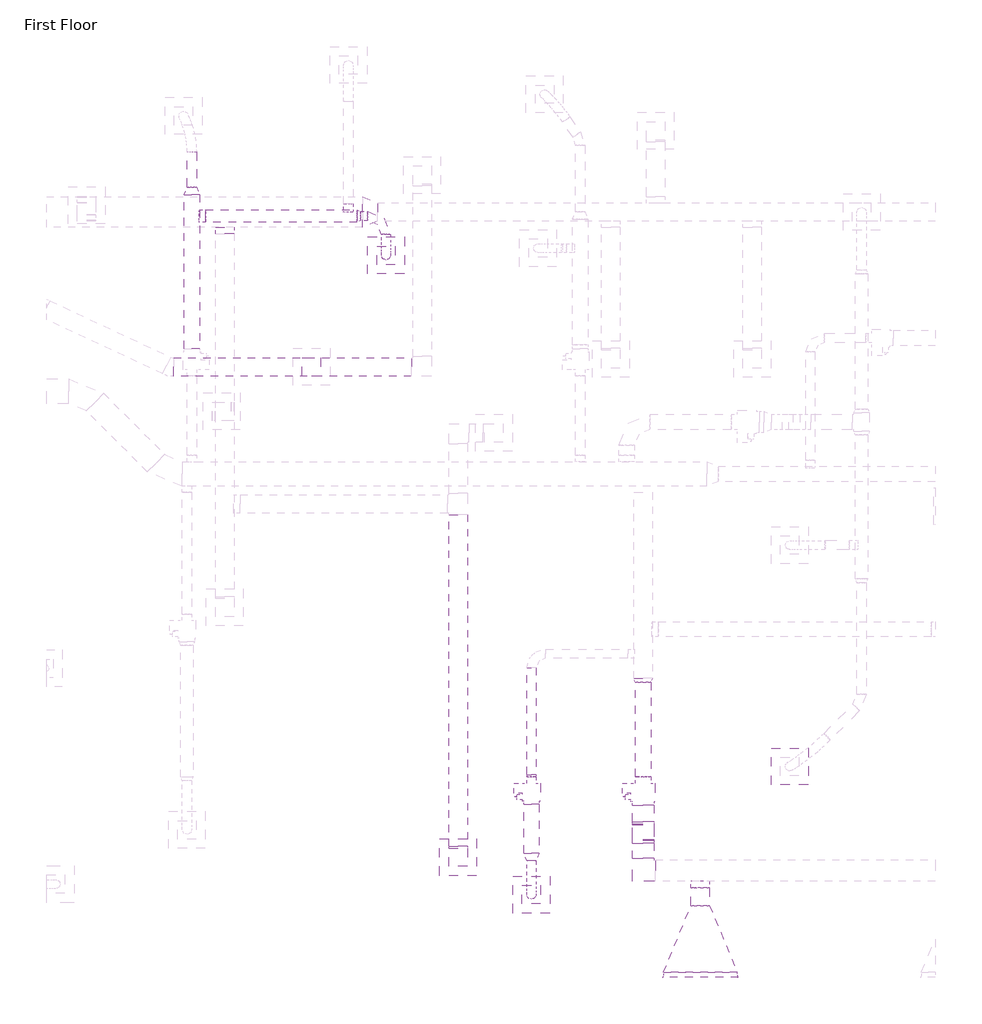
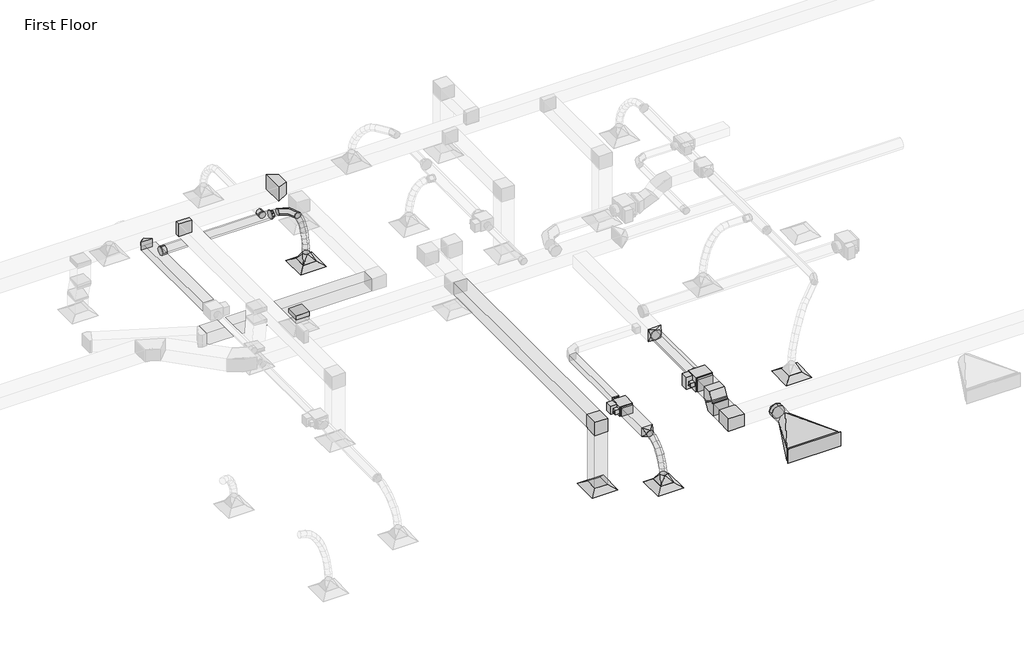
# One storey, part 52 of 61: 19 duct fittings, 17 duct segments, 5 air terminals, 2 proxies.
"""IFC4 building model written with IfcOpenShell, lengths in millimetres."""

from ifc_helpers import new_model, si_unit, point, frame, frame_2d, origin, place, context, project, spatial, polyline, circle_curve, ellipse_curve, trimmed, segment, composite_curve, outline, extrude, transform, mapped, element, save
from ifc_brep_helpers import plane_surface, cylinder_surface, advanced_brep
from components import m_exhaust_grill_er_600_x_600_face_300_x_300_connection_ff221211, m_supply_diffuser_sidewall_sd_1200mm_69bb5c6f, m_vav_unit_single_duct_150_mm_ffdab17b, m_vav_unit_single_duct_250_mm_b14a1009, m_rectangular_elbow_mitered_standard_8eee5933, m_rectangular_elbow_mitered_standard_2347553f, m_rectangular_elbow_mitered_standard_ca528a26, m_rectangular_takeoff_standard_c00386d1, m_rectangular_transition_angle_45_degree_a01fcfa2, m_rectangular_to_round_transition_angle_45_degree_8f201c83, m_rectangular_to_round_transition_angle_45_degree_f32b718d, m_rectangular_to_round_transition_angle_45_degree_c3b12eae, m_rectangular_to_round_transition_angle_45_degree_2860c485, m_rectangular_to_round_transition_angle_45_degree_57822a91, m_round_elbow_2_d_c40af4c7, m_round_takeoff_standard_bf54a221, m_round_takeoff_standard_8efdd074, m_round_takeoff_standard_7aadd90a, m_round_transition_angle_45_degree_6d7b59ce

model = new_model("IFC4")

# Units and contexts
model_context = context("Model", 3, world=origin())
ifc_project = project(units=[si_unit("LENGTHUNIT", "METRE", prefix="MILLI")], contexts=[model_context])

# Site, building, storey
site = spatial("IfcSite", under=ifc_project)
building = spatial("IfcBuilding", under=site)
storey = spatial("IfcBuildingStorey", under=building, Name="First Floor", Elevation=0.0)

# Air terminals
placement = place(None, origin())
m_exhaust_grill_er_600_x_600_face_300_x_300_connection_shape = m_exhaust_grill_er_600_x_600_face_300_x_300_connection_ff221211(model_context)
element("IfcAirTerminal", 1, ObjectType="M_Return Register : RR-600 x 600 Face 300 x 300 Connection", at=placement, inside=storey, context=model_context, shape_type="MappedRepresentation", body=[
    mapped(m_exhaust_grill_er_600_x_600_face_300_x_300_connection_shape, transform((-14834.8231147, 36728.272468, 2680.0), x_axis=(1.0, 0.0, 0.0), y_axis=(0.0, 1.0, 0.0), z_axis=(0.0, 0.0, 1.0))),
])
m_supply_diffuser_sidewall_sd_1200mm_shape = m_supply_diffuser_sidewall_sd_1200mm_69bb5c6f(model_context)
element("IfcAirTerminal", 2, ObjectType="M_Supply Diffuser - Sidewall : SD-1200mm", at=placement, inside=storey, context=model_context, shape_type="MappedRepresentation", body=[
    mapped(m_supply_diffuser_sidewall_sd_1200mm_shape, transform((-10897.7083319, 34780.0, 3450.0), x_axis=(1.0, 0.0, 0.0), y_axis=(0.0, 1.0, 0.0), z_axis=(0.0, 0.0, 1.0))),
])
element("IfcAirTerminal", 3, ObjectType="M_Supply Diffuser : SD-600 x 600 Face 300 x 300 Connection", at=placement, inside=storey, context=model_context, shape_type="MappedRepresentation", body=[
    mapped(m_exhaust_grill_er_600_x_600_face_300_x_300_connection_shape, transform((-13643.5915591, 36121.3540625, 2680.0), x_axis=(1.0, 0.0, 0.0), y_axis=(0.0, 1.0, 0.0), z_axis=(0.0, 0.0, 1.0))),
])
element("IfcAirTerminal", 4, ObjectType="M_Supply Diffuser : SD-600 x 600 Face 300 x 300 Connection", at=placement, inside=storey, context=model_context, shape_type="MappedRepresentation", body=[
    mapped(m_exhaust_grill_er_600_x_600_face_300_x_300_connection_shape, transform((-16006.5821654, 46505.6449671, 2680.0), x_axis=(1.0, 0.0, 0.0), y_axis=(0.0, 1.0, 0.0), z_axis=(0.0, 0.0, 1.0))),
])
element("IfcAirTerminal", 5, ObjectType="M_Supply Diffuser : SD-600 x 600 Face 300 x 300 Connection", at=placement, inside=storey, context=model_context, shape_type="MappedRepresentation", body=[
    mapped(m_exhaust_grill_er_600_x_600_face_300_x_300_connection_shape, transform((-9443.8265855, 38203.1138796, 2680.0), x_axis=(1.0, 0.0, 0.0), y_axis=(0.0, 1.0, 0.0), z_axis=(0.0, 0.0, 1.0))),
])

# Proxies
m_vav_unit_single_duct_150_mm_shape = m_vav_unit_single_duct_150_mm_ffdab17b(model_context)
element("IfcBuildingElementProxy", 6, Name="M_VAV Unit - Single Duct : 150 mm", ObjectType="M_VAV Unit - Single Duct : 150 mm", at=placement, inside=storey, context=model_context, shape_type="MappedRepresentation", body=[
    mapped(m_vav_unit_single_duct_150_mm_shape, transform((-13643.5915591, 37932.1748195, 3500.05), x_axis=(0.0, -1.0, 0.0), y_axis=(1.0, 0.0, 0.0), z_axis=(0.0, 0.0, 1.0))),
])
m_vav_unit_single_duct_250_mm_shape = m_vav_unit_single_duct_250_mm_b14a1009(model_context)
element("IfcBuildingElementProxy", 7, Name="M_VAV Unit - Single Duct : 250 mm", ObjectType="M_VAV Unit - Single Duct : 250 mm", at=placement, inside=storey, context=model_context, shape_type="MappedRepresentation", body=[
    mapped(m_vav_unit_single_duct_250_mm_shape, transform((-11828.5962336, 37932.1748202, 3500.05), x_axis=(0.0, -1.0000000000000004, 0.0), y_axis=(1.0000000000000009, 0.0, 0.0), z_axis=(0.0, 0.0, 1.0000000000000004))),
])

# Duct fittings
m_rectangular_elbow_mitered_standard_shape = m_rectangular_elbow_mitered_standard_8eee5933(model_context)
element("IfcDuctFitting", 8, ObjectType="M_Rectangular Elbow - Mitered : Standard", at=placement, inside=storey, context=model_context, shape_type="MappedRepresentation", body=[
    mapped(m_rectangular_elbow_mitered_standard_shape, transform((-14834.8231147, 36728.272468, 4259.5), x_axis=(0.0, 0.0, 1.0), y_axis=(0.0, 1.0, 0.0), z_axis=(-1.0, 0.0, 0.0))),
])
m_rectangular_elbow_mitered_standard_2_shape = m_rectangular_elbow_mitered_standard_2347553f(model_context)
element("IfcDuctFitting", 9, ObjectType="M_Rectangular Elbow - Mitered : Standard", at=placement, inside=storey, context=model_context, shape_type="MappedRepresentation", body=[
    mapped(m_rectangular_elbow_mitered_standard_2_shape, transform((-11828.5962336, 36511.5685433, 3450.0), x_axis=(0.0, -1.0, 0.0), y_axis=(1.0, 0.0, 0.0), z_axis=(0.0, 0.0, 1.0))),
])
m_rectangular_elbow_mitered_standard_3_shape = m_rectangular_elbow_mitered_standard_ca528a26(model_context)
element("IfcDuctFitting", 10, ObjectType="M_Rectangular Elbow - Mitered : Standard", at=placement, inside=storey, context=model_context, shape_type="MappedRepresentation", body=[
    mapped(m_rectangular_elbow_mitered_standard_3_shape, transform((-11828.5962336, 37195.3748195, 3669.1), x_axis=(0.0, -1.0, 0.0), y_axis=(0.0, 0.0, -1.0), z_axis=(1.0, 0.0, 0.0))),
])
element("IfcDuctFitting", 11, ObjectType="M_Rectangular Elbow - Mitered : Standard", at=placement, inside=storey, context=model_context, shape_type="MappedRepresentation", body=[
    mapped(m_rectangular_elbow_mitered_standard_3_shape, transform((-11828.5962336, 37068.6026039, 3450.0), x_axis=(0.0, 1.0, 0.0), y_axis=(0.0, 0.0, 1.0), z_axis=(1.0, 0.0, 0.0))),
])
m_rectangular_takeoff_standard_shape = m_rectangular_takeoff_standard_c00386d1(model_context)
element("IfcDuctFitting", 12, ObjectType="M_Rectangular Takeoff : Standard", at=placement, inside=storey, context=model_context, shape_type="MappedRepresentation", body=[
    mapped(m_rectangular_takeoff_standard_shape, transform((-18629.3987258, 46961.3321421, 4259.5), x_axis=(0.0, -1.0, 0.0), y_axis=(-1.0, 0.0, 0.0), z_axis=(0.0, 0.0, -1.0))),
])
element("IfcDuctFitting", 13, ObjectType="M_Rectangular Takeoff : Standard", at=placement, inside=storey, context=model_context, shape_type="MappedRepresentation", body=[
    mapped(m_rectangular_takeoff_standard_shape, transform((-17218.5108893, 44694.9781212, 3050.0), x_axis=(0.0, 0.0, -1.0), y_axis=(1.0, 0.0, 0.0), z_axis=(0.0, -1.0, 0.0))),
])
m_rectangular_transition_angle_45_degree_shape = m_rectangular_transition_angle_45_degree_a01fcfa2(model_context)
element("IfcDuctFitting", 14, ObjectType="M_Rectangular Transition - Angle : 45 Degree", at=placement, inside=storey, context=model_context, shape_type="MappedRepresentation", body=[
    mapped(m_rectangular_transition_angle_45_degree_shape, transform((-16148.2435122, 47211.3321421, 4259.5), x_axis=(-1.0, 0.0, 0.0), y_axis=(0.0, -1.0, 0.0), z_axis=(0.0, 0.0, 1.0))),
])
m_rectangular_to_round_transition_angle_45_degree_shape = m_rectangular_to_round_transition_angle_45_degree_8f201c83(model_context)
element("IfcDuctFitting", 15, ObjectType="M_Rectangular to Round Transition - Angle : 45 Degree", at=placement, inside=storey, context=model_context, shape_type="MappedRepresentation", body=[
    mapped(m_rectangular_to_round_transition_angle_45_degree_shape, transform((-13643.5915591, 36121.3540625, 2781.6), x_axis=(0.0, 0.0, 1.0), y_axis=(1.0, 0.0, 0.0), z_axis=(0.0, 1.0, 0.0))),
])
element("IfcDuctFitting", 16, ObjectType="M_Rectangular to Round Transition - Angle : 45 Degree", at=placement, inside=storey, context=model_context, shape_type="MappedRepresentation", body=[
    mapped(m_rectangular_to_round_transition_angle_45_degree_shape, transform((-16006.5821654, 46505.6449671, 2781.6), x_axis=(0.0, 0.0, 1.0), y_axis=(1.0, 0.0, 0.0), z_axis=(0.0, 1.0, 0.0))),
])
m_rectangular_to_round_transition_angle_45_degree_2_shape = m_rectangular_to_round_transition_angle_45_degree_f32b718d(model_context)
element("IfcDuctFitting", 17, ObjectType="M_Rectangular to Round Transition - Angle : 45 Degree", at=placement, inside=storey, context=model_context, shape_type="MappedRepresentation", body=[
    mapped(m_rectangular_to_round_transition_angle_45_degree_2_shape, transform((-10897.7083319, 34856.2, 3450.0), x_axis=(0.0, 1.0, 0.0), y_axis=(-1.0, 0.0, 0.0), z_axis=(0.0, 0.0, 1.0))),
])
m_rectangular_to_round_transition_angle_45_degree_3_shape = m_rectangular_to_round_transition_angle_45_degree_c3b12eae(model_context)
element("IfcDuctFitting", 18, ObjectType="M_Rectangular to Round Transition - Angle : 45 Degree", at=placement, inside=storey, context=model_context, shape_type="MappedRepresentation", body=[
    mapped(m_rectangular_to_round_transition_angle_45_degree_3_shape, transform((-13643.5915591, 36789.3748195, 3619.1), x_axis=(0.0, -1.0, 0.0), y_axis=(1.0, 0.0, 0.0), z_axis=(0.0, 0.0, 1.0))),
])
element("IfcDuctFitting", 19, ObjectType="M_Rectangular to Round Transition - Angle : 45 Degree", at=placement, inside=storey, context=model_context, shape_type="MappedRepresentation", body=[
    mapped(m_rectangular_to_round_transition_angle_45_degree_3_shape, transform((-19163.3092474, 47492.0581212, 3669.2), x_axis=(0.0, 1.0, 0.0), y_axis=(-1.0, 0.0, 0.0), z_axis=(0.0, 0.0, 1.0))),
])
m_rectangular_to_round_transition_angle_45_degree_4_shape = m_rectangular_to_round_transition_angle_45_degree_2860c485(model_context)
element("IfcDuctFitting", 20, ObjectType="M_Rectangular to Round Transition - Angle : 45 Degree", at=placement, inside=storey, context=model_context, shape_type="MappedRepresentation", body=[
    mapped(m_rectangular_to_round_transition_angle_45_degree_4_shape, transform((-13642.7415591, 38071.2748195, 3609.575), x_axis=(0.0, -1.0, 0.0), y_axis=(1.0, 0.0, 0.0), z_axis=(0.0, 0.0, 1.0))),
])
m_rectangular_to_round_transition_angle_45_degree_5_shape = m_rectangular_to_round_transition_angle_45_degree_57822a91(model_context)
element("IfcDuctFitting", 21, ObjectType="M_Rectangular to Round Transition - Angle : 45 Degree", at=placement, inside=storey, context=model_context, shape_type="MappedRepresentation", body=[
    mapped(m_rectangular_to_round_transition_angle_45_degree_5_shape, transform((-11827.7462336, 39633.7748202, 3659.6000695), x_axis=(0.0, -0.9999999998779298, -1.5624999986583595e-05), y_axis=(1.0000000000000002, 0.0, 0.0), z_axis=(0.0, -1.5624999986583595e-05, 0.9999999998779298))),
])
m_round_elbow_2_d_shape = m_round_elbow_2_d_c40af4c7(model_context)
element("IfcDuctFitting", 22, ObjectType="M_Round Elbow : 2 D", at=placement, inside=storey, context=model_context, shape_type="MappedRepresentation", body=[
    mapped(m_round_elbow_2_d_shape, transform((-16006.5821654, 47145.4097109, 3669.2), x_axis=(0.0, 1.0, 0.0), y_axis=(-1.0, 0.0, 0.0), z_axis=(0.0, 0.0, 1.0))),
])
m_round_takeoff_standard_shape = m_round_takeoff_standard_bf54a221(model_context)
element("IfcDuctFitting", 23, ObjectType="M_Round Takeoff : Standard", at=placement, inside=storey, context=model_context, shape_type="MappedRepresentation", body=[
    mapped(m_round_takeoff_standard_shape, transform((-16619.2800831, 47245.4097109, 3669.2), x_axis=(0.0, 1.0, 0.0), y_axis=(1.0, 0.0, 0.0), z_axis=(0.0, 0.0, -1.0))),
])
m_round_takeoff_standard_2_shape = m_round_takeoff_standard_8efdd074(model_context)
element("IfcDuctFitting", 24, ObjectType="M_Round Takeoff : Standard", at=placement, inside=storey, context=model_context, shape_type="MappedRepresentation", body=[
    mapped(m_round_takeoff_standard_2_shape, transform((-19038.3092474, 47145.4097109, 3669.2), x_axis=(1.0, 0.0, 0.0), y_axis=(0.0, -1.0, 0.0), z_axis=(0.0, 0.0, -1.0))),
])
m_round_takeoff_standard_3_shape = m_round_takeoff_standard_7aadd90a(model_context)
element("IfcDuctFitting", 25, ObjectType="M_Round Takeoff : Standard", at=placement, inside=storey, context=model_context, shape_type="MappedRepresentation", body=[
    mapped(m_round_takeoff_standard_3_shape, transform((-10897.7083319, 36336.5685433, 3450.0), x_axis=(0.0, -1.0, 0.0), y_axis=(-1.0, 0.0, 0.0), z_axis=(0.0, 0.0, -1.0))),
])
m_round_transition_angle_45_degree_shape = m_round_transition_angle_45_degree_6d7b59ce(model_context)
element("IfcDuctFitting", 26, ObjectType="M_Round Transition - Angle : 45 Degree", at=placement, inside=storey, context=model_context, shape_type="MappedRepresentation", body=[
    mapped(m_round_transition_angle_45_degree_shape, transform((-16479.2800831, 47145.4097109, 3669.2), x_axis=(1.0, 0.0, 0.0), y_axis=(0.0, 1.0, 0.0), z_axis=(0.0, 0.0, 1.0))),
])

# Duct segments
element("IfcDuctSegment", 27, ObjectType="Flex - Round", at=placement, inside=storey, context=model_context, shape_type="AdvancedBrep", body=[
    advanced_brep(
    [(-13568.5915591, 36668.6641414, 3619.1), (-13643.5915591, 36681.8363138, 3545.2657676), (-13718.5915591, 36668.6641414, 3619.1), (-13643.5915591, 36655.4919689, 3692.9342324), (-13568.5915591, 36548.6441241, 3597.6881926), (-13643.5915591, 36573.1125205, 3525.8692288), (-13718.5915591, 36548.6441241, 3597.6881926), (-13643.5915591, 36524.1757277, 3669.5071564), (-13568.5915591, 36121.3540625, 2962.6660172), (-13643.5915591, 36046.9051455, 2971.7411902), (-13718.5915591, 36121.3540625, 2962.6660172), (-13643.5915591, 36195.8029794, 2953.5908441), (-13568.5915591, 36435.5726453, 3538.7962341), (-13643.5915591, 36478.0374339, 3476.3504809), (-13718.5915591, 36435.5726453, 3538.7962341), (-13643.5915591, 36393.1078567, 3601.2419873), (-13568.5915591, 36333.6471544, 3450.4393199), (-13643.5915591, 36388.1422604, 3398.4223781), (-13718.5915591, 36333.6471544, 3450.4393199), (-13643.5915591, 36279.1520484, 3502.4562617), (-13568.5915591, 36247.0651011, 3340.6326457), (-13643.5915591, 36309.9037755, 3299.1973368), (-13718.5915591, 36247.0651011, 3340.6326457), (-13643.5915591, 36184.2264266, 3382.0679545), (-13568.5915591, 36180.0239349, 3217.3914068), (-13643.5915591, 36249.0246682, 3187.2837613), (-13718.5915591, 36180.0239349, 3217.3914068), (-13643.5915591, 36111.0232016, 3247.4990522), (-13568.5915591, 36136.7211055, 3088.7307988), (-13643.5915591, 36210.2440753, 3072.059543), (-13718.5915591, 36136.7211055, 3088.7307988), (-13643.5915591, 36063.1981358, 3105.4020546)],
    [
        (0, 1, circle_curve(frame((-13643.5915591, 36668.6641414, 3619.1), z_axis=(0.0, 0.9844564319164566, 0.17562896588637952), x_axis=(1.0, 0.0, 0.0)), 75.0)),
        (1, 2, circle_curve(frame((-13643.5915591, 36668.6641414, 3619.1), z_axis=(0.0, 0.9844564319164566, 0.17562896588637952), x_axis=(1.0, 0.0, 0.0)), 75.0)),
        (2, 3, circle_curve(frame((-13643.5915591, 36668.6641414, 3619.1), z_axis=(0.0, 0.9844564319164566, 0.17562896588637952), x_axis=(1.0, 0.0, 0.0)), 75.0)),
        (3, 0, circle_curve(frame((-13643.5915591, 36668.6641414, 3619.1), z_axis=(0.0, 0.9844564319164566, 0.17562896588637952), x_axis=(1.0, 0.0, 0.0)), 75.0)),
        (0, 4),
        (4, 5, ellipse_curve(frame((-13643.5915591, 36548.6441241, 3597.6881926), z_axis=(0.0, 0.9465719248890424, 0.322492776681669), x_axis=(0.0, 0.32249277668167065, -0.946571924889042)), 75.8726959, 75.0)),
        (5, 1),
        (5, 6, ellipse_curve(frame((-13643.5915591, 36548.6441241, 3597.6881926), z_axis=(0.0, 0.9465719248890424, 0.322492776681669), x_axis=(0.0, 0.32249277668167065, -0.946571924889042)), 75.8726959, 75.0)),
        (6, 2),
        (6, 7, ellipse_curve(frame((-13643.5915591, 36548.6441241, 3597.6881926), z_axis=(0.0, 0.9465719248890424, 0.322492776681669), x_axis=(0.0, 0.32249277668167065, -0.946571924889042)), 75.8726959, 75.0)),
        (7, 3),
        (7, 4, ellipse_curve(frame((-13643.5915591, 36548.6441241, 3597.6881926), z_axis=(0.0, 0.9465719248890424, 0.322492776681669), x_axis=(0.0, 0.32249277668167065, -0.946571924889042)), 75.8726959, 75.0)),
        (8, 9, circle_curve(frame((-13643.5915591, 36121.3540625, 2962.6660172), z_axis=(0.0, -0.12100230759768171, -0.9926522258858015), x_axis=(1.0, 0.0, 0.0)), 75.0)),
        (9, 10, circle_curve(frame((-13643.5915591, 36121.3540625, 2962.6660172), z_axis=(0.0, -0.12100230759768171, -0.9926522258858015), x_axis=(1.0, 0.0, 0.0)), 75.0)),
        (10, 11, circle_curve(frame((-13643.5915591, 36121.3540625, 2962.6660172), z_axis=(0.0, -0.12100230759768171, -0.9926522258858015), x_axis=(1.0, 0.0, 0.0)), 75.0)),
        (11, 8, circle_curve(frame((-13643.5915591, 36121.3540625, 2962.6660172), z_axis=(0.0, -0.12100230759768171, -0.9926522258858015), x_axis=(1.0, 0.0, 0.0)), 75.0)),
        (4, 12),
        (12, 13, ellipse_curve(frame((-13643.5915591, 36435.5726453, 3538.7962341), z_axis=(0.0, 0.8269161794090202, 0.5623252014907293), x_axis=(0.0, 0.5623252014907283, -0.8269161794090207)), 75.5164245, 75.0)),
        (13, 5),
        (13, 14, ellipse_curve(frame((-13643.5915591, 36435.5726453, 3538.7962341), z_axis=(0.0, 0.8269161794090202, 0.5623252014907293), x_axis=(0.0, 0.5623252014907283, -0.8269161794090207)), 75.5164245, 75.0)),
        (14, 6),
        (14, 15, ellipse_curve(frame((-13643.5915591, 36435.5726453, 3538.7962341), z_axis=(0.0, 0.8269161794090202, 0.5623252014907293), x_axis=(0.0, 0.5623252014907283, -0.8269161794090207)), 75.5164245, 75.0)),
        (15, 7),
        (15, 12, ellipse_curve(frame((-13643.5915591, 36435.5726453, 3538.7962341), z_axis=(0.0, 0.8269161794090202, 0.5623252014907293), x_axis=(0.0, 0.5623252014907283, -0.8269161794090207)), 75.5164245, 75.0)),
        (12, 16),
        (16, 17, ellipse_curve(frame((-13643.5915591, 36333.6471544, 3450.4393199), z_axis=(0.0, 0.6904680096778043, 0.7233629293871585), x_axis=(0.0, 0.72336292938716, -0.690468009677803)), 75.3357738, 75.0)),
        (17, 13),
        (17, 18, ellipse_curve(frame((-13643.5915591, 36333.6471544, 3450.4393199), z_axis=(0.0, 0.6904680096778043, 0.7233629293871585), x_axis=(0.0, 0.72336292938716, -0.690468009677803)), 75.3357738, 75.0)),
        (18, 14),
        (18, 19, ellipse_curve(frame((-13643.5915591, 36333.6471544, 3450.4393199), z_axis=(0.0, 0.6904680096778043, 0.7233629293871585), x_axis=(0.0, 0.72336292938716, -0.690468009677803)), 75.3357738, 75.0)),
        (19, 15),
        (19, 16, ellipse_curve(frame((-13643.5915591, 36333.6471544, 3450.4393199), z_axis=(0.0, 0.6904680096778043, 0.7233629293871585), x_axis=(0.0, 0.72336292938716, -0.690468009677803)), 75.3357738, 75.0)),
        (16, 20),
        (20, 21, ellipse_curve(frame((-13643.5915591, 36247.0651011, 3340.6326457), z_axis=(0.0, 0.5504884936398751, 0.8348427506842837), x_axis=(0.0, 0.834842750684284, -0.5504884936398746)), 75.2700726, 75.0)),
        (21, 17),
        (21, 22, ellipse_curve(frame((-13643.5915591, 36247.0651011, 3340.6326457), z_axis=(0.0, 0.5504884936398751, 0.8348427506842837), x_axis=(0.0, 0.834842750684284, -0.5504884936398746)), 75.2700726, 75.0)),
        (22, 18),
        (22, 23, ellipse_curve(frame((-13643.5915591, 36247.0651011, 3340.6326457), z_axis=(0.0, 0.5504884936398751, 0.8348427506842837), x_axis=(0.0, 0.834842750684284, -0.5504884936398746)), 75.2700726, 75.0)),
        (23, 19),
        (23, 20, ellipse_curve(frame((-13643.5915591, 36247.0651011, 3340.6326457), z_axis=(0.0, 0.5504884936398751, 0.8348427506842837), x_axis=(0.0, 0.834842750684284, -0.5504884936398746)), 75.2700726, 75.0)),
        (20, 24),
        (24, 25, ellipse_curve(frame((-13643.5915591, 36180.0239349, 3217.3914068), z_axis=(0.0, 0.3999247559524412, 0.9165479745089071), x_axis=(0.0, 0.9165479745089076, -0.3999247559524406)), 75.2832751, 75.0)),
        (25, 21),
        (25, 26, ellipse_curve(frame((-13643.5915591, 36180.0239349, 3217.3914068), z_axis=(0.0, 0.3999247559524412, 0.9165479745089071), x_axis=(0.0, 0.9165479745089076, -0.3999247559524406)), 75.2832751, 75.0)),
        (26, 22),
        (26, 27, ellipse_curve(frame((-13643.5915591, 36180.0239349, 3217.3914068), z_axis=(0.0, 0.3999247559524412, 0.9165479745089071), x_axis=(0.0, 0.9165479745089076, -0.3999247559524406)), 75.2832751, 75.0)),
        (27, 23),
        (27, 24, ellipse_curve(frame((-13643.5915591, 36180.0239349, 3217.3914068), z_axis=(0.0, 0.3999247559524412, 0.9165479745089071), x_axis=(0.0, 0.9165479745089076, -0.3999247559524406)), 75.2832751, 75.0)),
        (24, 28),
        (28, 29, ellipse_curve(frame((-13643.5915591, 36136.7211055, 3088.7307988), z_axis=(0.0, 0.22113534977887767, 0.9752431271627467), x_axis=(0.0, 0.9752431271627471, -0.22113534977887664)), 75.3893749, 75.0)),
        (29, 25),
        (29, 30, ellipse_curve(frame((-13643.5915591, 36136.7211055, 3088.7307988), z_axis=(0.0, 0.22113534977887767, 0.9752431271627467), x_axis=(0.0, 0.9752431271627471, -0.22113534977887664)), 75.3893749, 75.0)),
        (30, 26),
        (30, 31, ellipse_curve(frame((-13643.5915591, 36136.7211055, 3088.7307988), z_axis=(0.0, 0.22113534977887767, 0.9752431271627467), x_axis=(0.0, 0.9752431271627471, -0.22113534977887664)), 75.3893749, 75.0)),
        (31, 27),
        (31, 28, ellipse_curve(frame((-13643.5915591, 36136.7211055, 3088.7307988), z_axis=(0.0, 0.22113534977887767, 0.9752431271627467), x_axis=(0.0, 0.9752431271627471, -0.22113534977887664)), 75.3893749, 75.0)),
        (28, 8),
        (11, 29),
        (10, 30),
        (9, 31),
    ],
    [
        plane_surface(frame((-13643.5915591, 36681.8363138, 3545.2657676), z_axis=(0.0, 0.9844564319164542, 0.1756289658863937), x_axis=(1.0, 0.0, 0.0))),
        cylinder_surface(frame((-13643.5915591, 36668.6641414, 3619.1), z_axis=(0.0, 0.9844564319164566, 0.17562896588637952), x_axis=(1.0, 0.0, 0.0)), 75.0),
        plane_surface(frame((-13643.5915591, 36195.8029794, 2953.5908441), z_axis=(0.0, -0.12100230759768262, -0.9926522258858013), x_axis=(1.0, 0.0, 0.0))),
        cylinder_surface(frame((-13643.5915591, 36548.6441241, 3597.6881926), z_axis=(0.0, 0.8869122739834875, 0.46193789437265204), x_axis=(1.0, 0.0, 0.0)), 75.0),
        cylinder_surface(frame((-13643.5915591, 36435.5726453, 3538.7962341), z_axis=(0.0, 0.7556102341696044, 0.6550215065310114), x_axis=(1.0, 0.0, 0.0)), 75.0),
        cylinder_surface(frame((-13643.5915591, 36333.6471544, 3450.4393199), z_axis=(0.0, 0.6191709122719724, 0.7852562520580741), x_axis=(1.0, 0.0, 0.0)), 75.0),
        cylinder_surface(frame((-13643.5915591, 36247.0651011, 3340.6326457), z_axis=(0.0, 0.4778557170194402, 0.8784383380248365), x_axis=(1.0, 0.0, 0.0)), 75.0),
        cylinder_surface(frame((-13643.5915591, 36180.0239349, 3217.3914068), z_axis=(0.0, 0.31898412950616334, 0.9477600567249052), x_axis=(1.0, 0.0, 0.0)), 75.0),
        cylinder_surface(frame((-13643.5915591, 36136.7211055, 3088.7307988), z_axis=(0.0, 0.12100230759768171, 0.9926522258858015), x_axis=(1.0, 0.0, 0.0)), 75.0),
    ],
    [
        (0, [[1, 2, 3, 4]]),
        (1, [[-1, 5, 6, 7]]),
        (1, [[-2, -7, 8, 9]]),
        (1, [[-3, -9, 10, 11]]),
        (1, [[-4, -11, 12, -5]]),
        (2, [[13, 14, 15, 16]]),
        (3, [[-6, 17, 18, 19]]),
        (3, [[-8, -19, 20, 21]]),
        (3, [[-10, -21, 22, 23]]),
        (3, [[-12, -23, 24, -17]]),
        (4, [[-18, 25, 26, 27]]),
        (4, [[-20, -27, 28, 29]]),
        (4, [[-22, -29, 30, 31]]),
        (4, [[-24, -31, 32, -25]]),
        (5, [[-26, 33, 34, 35]]),
        (5, [[-28, -35, 36, 37]]),
        (5, [[-30, -37, 38, 39]]),
        (5, [[-32, -39, 40, -33]]),
        (6, [[-34, 41, 42, 43]]),
        (6, [[-36, -43, 44, 45]]),
        (6, [[-38, -45, 46, 47]]),
        (6, [[-40, -47, 48, -41]]),
        (7, [[-42, 49, 50, 51]]),
        (7, [[-44, -51, 52, 53]]),
        (7, [[-46, -53, 54, 55]]),
        (7, [[-48, -55, 56, -49]]),
        (8, [[-50, 57, -16, 58]]),
        (8, [[-52, -58, -15, 59]]),
        (8, [[-54, -59, -14, 60]]),
        (8, [[-56, -60, -13, -57]]),
    ],
),
])
element("IfcDuctSegment", 28, ObjectType="Flex - Round", at=placement, inside=storey, context=model_context, shape_type="AdvancedBrep", body=[
    advanced_brep(
    [(-15931.5821654, 46845.4097109, 3669.2), (-16006.5821654, 46861.4635156, 3595.9383091), (-16081.5821654, 46845.4097109, 3669.2), (-16006.5821654, 46829.3559063, 3742.4616909), (-15931.5821654, 46755.7807602, 3649.5596443), (-16006.5821654, 46787.3206497, 3579.6914129), (-16081.5821654, 46755.7807602, 3649.5596443), (-16006.5821654, 46724.2408707, 3719.4278757), (-15931.5821654, 46505.6449671, 2962.6660172), (-16006.5821654, 46430.6957634, 2965.4258837), (-16081.5821654, 46505.6449671, 2962.6660172), (-16006.5821654, 46580.5941708, 2959.9061507), (-15931.5821654, 46682.0737701, 3595.5532984), (-16006.5821654, 46735.8190881, 3541.9553563), (-16081.5821654, 46682.0737701, 3595.5532984), (-16006.5821654, 46628.3284521, 3649.1512405), (-15931.5821654, 46623.0646687, 3514.5530442), (-16006.5821654, 46688.2187728, 3476.6156452), (-16081.5821654, 46623.0646687, 3514.5530442), (-16006.5821654, 46557.9105647, 3552.4904433), (-15931.5821654, 46577.5293838, 3413.9309638), (-16006.5821654, 46647.9984416, 3387.7383402), (-16081.5821654, 46577.5293838, 3413.9309638), (-16006.5821654, 46507.0603261, 3440.1235874), (-15931.5821654, 46544.2438433, 3301.0591389), (-16006.5821654, 46617.2418977, 3283.4423849), (-16081.5821654, 46544.2438433, 3301.0591389), (-16006.5821654, 46471.245789, 3318.6758929), (-15931.5821654, 46521.9839751, 3183.3096516), (-16006.5821654, 46596.2304236, 3172.2966101), (-16081.5821654, 46521.9839751, 3183.3096516), (-16006.5821654, 46447.7375267, 3194.3226931), (-15931.5821654, 46509.5257071, 3068.0545837), (-16006.5821654, 46584.3770762, 3062.6378391), (-16081.5821654, 46509.5257071, 3068.0545837), (-16006.5821654, 46434.674338, 3073.4713282)],
    [
        (0, 1, circle_curve(frame((-16006.5821654, 46845.4097109, 3669.2), z_axis=(0.0, 0.9768225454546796, 0.21405072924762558), x_axis=(1.0, 0.0, 0.0)), 75.0)),
        (1, 2, circle_curve(frame((-16006.5821654, 46845.4097109, 3669.2), z_axis=(0.0, 0.9768225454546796, 0.21405072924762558), x_axis=(1.0, 0.0, 0.0)), 75.0)),
        (2, 3, circle_curve(frame((-16006.5821654, 46845.4097109, 3669.2), z_axis=(0.0, 0.9768225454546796, 0.21405072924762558), x_axis=(1.0, 0.0, 0.0)), 75.0)),
        (3, 0, circle_curve(frame((-16006.5821654, 46845.4097109, 3669.2), z_axis=(0.0, 0.9768225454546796, 0.21405072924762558), x_axis=(1.0, 0.0, 0.0)), 75.0)),
        (0, 4),
        (4, 5, ellipse_curve(frame((-16006.5821654, 46755.7807602, 3649.5596443), z_axis=(0.0, 0.9114366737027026, 0.4114403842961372), x_axis=(0.0, 0.4114403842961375, -0.9114366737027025)), 76.6572527, 75.0)),
        (5, 1),
        (5, 6, ellipse_curve(frame((-16006.5821654, 46755.7807602, 3649.5596443), z_axis=(0.0, 0.9114366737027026, 0.4114403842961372), x_axis=(0.0, 0.4114403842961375, -0.9114366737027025)), 76.6572527, 75.0)),
        (6, 2),
        (6, 7, ellipse_curve(frame((-16006.5821654, 46755.7807602, 3649.5596443), z_axis=(0.0, 0.9114366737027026, 0.4114403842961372), x_axis=(0.0, 0.4114403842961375, -0.9114366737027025)), 76.6572527, 75.0)),
        (7, 3),
        (7, 4, ellipse_curve(frame((-16006.5821654, 46755.7807602, 3649.5596443), z_axis=(0.0, 0.9114366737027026, 0.4114403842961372), x_axis=(0.0, 0.4114403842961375, -0.9114366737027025)), 76.6572527, 75.0)),
        (8, 9, circle_curve(frame((-16006.5821654, 46505.6449671, 2962.6660172), z_axis=(0.0, -0.03679821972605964, -0.9993227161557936), x_axis=(1.0, 0.0, 0.0)), 75.0)),
        (9, 10, circle_curve(frame((-16006.5821654, 46505.6449671, 2962.6660172), z_axis=(0.0, -0.03679821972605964, -0.9993227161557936), x_axis=(1.0, 0.0, 0.0)), 75.0)),
        (10, 11, circle_curve(frame((-16006.5821654, 46505.6449671, 2962.6660172), z_axis=(0.0, -0.03679821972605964, -0.9993227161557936), x_axis=(1.0, 0.0, 0.0)), 75.0)),
        (11, 8, circle_curve(frame((-16006.5821654, 46505.6449671, 2962.6660172), z_axis=(0.0, -0.03679821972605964, -0.9993227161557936), x_axis=(1.0, 0.0, 0.0)), 75.0)),
        (4, 12),
        (12, 13, ellipse_curve(frame((-16006.5821654, 46682.0737701, 3595.5532984), z_axis=(0.0, 0.7061353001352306, 0.7080769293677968), x_axis=(0.0, 0.7080769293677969, -0.7061353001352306)), 75.9032187, 75.0)),
        (13, 5),
        (13, 14, ellipse_curve(frame((-16006.5821654, 46682.0737701, 3595.5532984), z_axis=(0.0, 0.7061353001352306, 0.7080769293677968), x_axis=(0.0, 0.7080769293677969, -0.7061353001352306)), 75.9032187, 75.0)),
        (14, 6),
        (14, 15, ellipse_curve(frame((-16006.5821654, 46682.0737701, 3595.5532984), z_axis=(0.0, 0.7061353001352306, 0.7080769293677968), x_axis=(0.0, 0.7080769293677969, -0.7061353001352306)), 75.9032187, 75.0)),
        (15, 7),
        (15, 12, ellipse_curve(frame((-16006.5821654, 46682.0737701, 3595.5532984), z_axis=(0.0, 0.7061353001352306, 0.7080769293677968), x_axis=(0.0, 0.7080769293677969, -0.7061353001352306)), 75.9032187, 75.0)),
        (12, 16),
        (16, 17, ellipse_curve(frame((-16006.5821654, 46623.0646687, 3514.5530442), z_axis=(0.0, 0.5031864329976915, 0.8641778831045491), x_axis=(0.0, 0.8641778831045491, -0.5031864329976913)), 75.3943203, 75.0)),
        (17, 13),
        (17, 18, ellipse_curve(frame((-16006.5821654, 46623.0646687, 3514.5530442), z_axis=(0.0, 0.5031864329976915, 0.8641778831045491), x_axis=(0.0, 0.8641778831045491, -0.5031864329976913)), 75.3943203, 75.0)),
        (18, 14),
        (18, 19, ellipse_curve(frame((-16006.5821654, 46623.0646687, 3514.5530442), z_axis=(0.0, 0.5031864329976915, 0.8641778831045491), x_axis=(0.0, 0.8641778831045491, -0.5031864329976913)), 75.3943203, 75.0)),
        (19, 15),
        (19, 16, ellipse_curve(frame((-16006.5821654, 46623.0646687, 3514.5530442), z_axis=(0.0, 0.5031864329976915, 0.8641778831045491), x_axis=(0.0, 0.8641778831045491, -0.5031864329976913)), 75.3943203, 75.0)),
        (16, 20),
        (20, 21, ellipse_curve(frame((-16006.5821654, 46577.5293838, 3413.9309638), z_axis=(0.0, 0.3484016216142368, 0.9373453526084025), x_axis=(0.0, 0.9373453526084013, -0.34840162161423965)), 75.1793963, 75.0)),
        (21, 17),
        (21, 22, ellipse_curve(frame((-16006.5821654, 46577.5293838, 3413.9309638), z_axis=(0.0, 0.3484016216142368, 0.9373453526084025), x_axis=(0.0, 0.9373453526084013, -0.34840162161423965)), 75.1793963, 75.0)),
        (22, 18),
        (22, 23, ellipse_curve(frame((-16006.5821654, 46577.5293838, 3413.9309638), z_axis=(0.0, 0.3484016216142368, 0.9373453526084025), x_axis=(0.0, 0.9373453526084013, -0.34840162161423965)), 75.1793963, 75.0)),
        (23, 19),
        (23, 20, ellipse_curve(frame((-16006.5821654, 46577.5293838, 3413.9309638), z_axis=(0.0, 0.3484016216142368, 0.9373453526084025), x_axis=(0.0, 0.9373453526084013, -0.34840162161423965)), 75.1793963, 75.0)),
        (20, 24),
        (24, 25, ellipse_curve(frame((-16006.5821654, 46544.2438433, 3301.0591389), z_axis=(0.0, 0.2345969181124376, 0.9720927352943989), x_axis=(0.0, 0.9720927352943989, -0.23459691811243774)), 75.0937145, 75.0)),
        (25, 21),
        (25, 26, ellipse_curve(frame((-16006.5821654, 46544.2438433, 3301.0591389), z_axis=(0.0, 0.2345969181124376, 0.9720927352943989), x_axis=(0.0, 0.9720927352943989, -0.23459691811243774)), 75.0937145, 75.0)),
        (26, 22),
        (26, 27, ellipse_curve(frame((-16006.5821654, 46544.2438433, 3301.0591389), z_axis=(0.0, 0.2345969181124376, 0.9720927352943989), x_axis=(0.0, 0.9720927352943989, -0.23459691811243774)), 75.0937145, 75.0)),
        (27, 23),
        (27, 24, ellipse_curve(frame((-16006.5821654, 46544.2438433, 3301.0591389), z_axis=(0.0, 0.2345969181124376, 0.9720927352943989), x_axis=(0.0, 0.9720927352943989, -0.23459691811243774)), 75.0937145, 75.0)),
        (24, 28),
        (28, 29, ellipse_curve(frame((-16006.5821654, 46521.9839751, 3183.3096516), z_axis=(0.0, 0.14672553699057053, 0.989177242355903), x_axis=(0.0, 0.9891772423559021, -0.14672553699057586)), 75.0587916, 75.0)),
        (29, 25),
        (29, 30, ellipse_curve(frame((-16006.5821654, 46521.9839751, 3183.3096516), z_axis=(0.0, 0.14672553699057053, 0.989177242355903), x_axis=(0.0, 0.9891772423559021, -0.14672553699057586)), 75.0587916, 75.0)),
        (30, 26),
        (30, 31, ellipse_curve(frame((-16006.5821654, 46521.9839751, 3183.3096516), z_axis=(0.0, 0.14672553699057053, 0.989177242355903), x_axis=(0.0, 0.9891772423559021, -0.14672553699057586)), 75.0587916, 75.0)),
        (31, 27),
        (31, 28, ellipse_curve(frame((-16006.5821654, 46521.9839751, 3183.3096516), z_axis=(0.0, 0.14672553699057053, 0.989177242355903), x_axis=(0.0, 0.9891772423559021, -0.14672553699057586)), 75.0587916, 75.0)),
        (28, 32),
        (32, 33, ellipse_curve(frame((-16006.5821654, 46509.5257071, 3068.0545837), z_axis=(0.0, 0.07217792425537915, 0.9973917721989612), x_axis=(0.0, 0.9973917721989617, -0.07217792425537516)), 75.047109, 75.0)),
        (33, 29),
        (33, 34, ellipse_curve(frame((-16006.5821654, 46509.5257071, 3068.0545837), z_axis=(0.0, 0.07217792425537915, 0.9973917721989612), x_axis=(0.0, 0.9973917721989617, -0.07217792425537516)), 75.047109, 75.0)),
        (34, 30),
        (34, 35, ellipse_curve(frame((-16006.5821654, 46509.5257071, 3068.0545837), z_axis=(0.0, 0.07217792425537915, 0.9973917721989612), x_axis=(0.0, 0.9973917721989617, -0.07217792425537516)), 75.047109, 75.0)),
        (35, 31),
        (35, 32, ellipse_curve(frame((-16006.5821654, 46509.5257071, 3068.0545837), z_axis=(0.0, 0.07217792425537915, 0.9973917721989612), x_axis=(0.0, 0.9973917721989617, -0.07217792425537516)), 75.047109, 75.0)),
        (32, 8),
        (11, 33),
        (10, 34),
        (9, 35),
    ],
    [
        plane_surface(frame((-16006.5821654, 46861.4635156, 3595.9383091), z_axis=(0.0, 0.9768225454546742, 0.21405072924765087), x_axis=(1.0, 0.0, 0.0))),
        cylinder_surface(frame((-16006.5821654, 46845.4097109, 3669.2), z_axis=(0.0, 0.9768225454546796, 0.21405072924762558), x_axis=(1.0, 0.0, 0.0)), 75.0),
        plane_surface(frame((-16006.5821654, 46580.5941708, 2959.9061507), z_axis=(0.0, -0.03679821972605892, -0.9993227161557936), x_axis=(1.0, 0.0, 0.0))),
        cylinder_surface(frame((-16006.5821654, 46755.7807602, 3649.5596443), z_axis=(0.0, 0.8066421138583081, 0.5910401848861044), x_axis=(1.0, 0.0, 0.0)), 75.0),
        cylinder_surface(frame((-16006.5821654, 46682.0737701, 3595.5532984), z_axis=(0.0, 0.5888230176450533, 0.8082619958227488), x_axis=(1.0, 0.0, 0.0)), 75.0),
        cylinder_surface(frame((-16006.5821654, 46623.0646687, 3514.5530442), z_axis=(0.0, 0.41228641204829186, 0.9110542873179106), x_axis=(1.0, 0.0, 0.0)), 75.0),
        cylinder_surface(frame((-16006.5821654, 46577.5293838, 3413.9309638), z_axis=(0.0, 0.282854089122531, 0.9591629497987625), x_axis=(1.0, 0.0, 0.0)), 75.0),
        cylinder_surface(frame((-16006.5821654, 46544.2438433, 3301.0591389), z_axis=(0.0, 0.1857542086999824, 0.9825962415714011), x_axis=(1.0, 0.0, 0.0)), 75.0),
        cylinder_surface(frame((-16006.5821654, 46521.9839751, 3183.3096516), z_axis=(0.0, 0.10746701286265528, 0.994208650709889), x_axis=(1.0, 0.0, 0.0)), 75.0),
        cylinder_surface(frame((-16006.5821654, 46509.5257071, 3068.0545837), z_axis=(0.0, 0.03679821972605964, 0.9993227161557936), x_axis=(1.0, 0.0, 0.0)), 75.0),
    ],
    [
        (0, [[1, 2, 3, 4]]),
        (1, [[-1, 5, 6, 7]]),
        (1, [[-2, -7, 8, 9]]),
        (1, [[-3, -9, 10, 11]]),
        (1, [[-4, -11, 12, -5]]),
        (2, [[13, 14, 15, 16]]),
        (3, [[-6, 17, 18, 19]]),
        (3, [[-8, -19, 20, 21]]),
        (3, [[-10, -21, 22, 23]]),
        (3, [[-12, -23, 24, -17]]),
        (4, [[-18, 25, 26, 27]]),
        (4, [[-20, -27, 28, 29]]),
        (4, [[-22, -29, 30, 31]]),
        (4, [[-24, -31, 32, -25]]),
        (5, [[-26, 33, 34, 35]]),
        (5, [[-28, -35, 36, 37]]),
        (5, [[-30, -37, 38, 39]]),
        (5, [[-32, -39, 40, -33]]),
        (6, [[-34, 41, 42, 43]]),
        (6, [[-36, -43, 44, 45]]),
        (6, [[-38, -45, 46, 47]]),
        (6, [[-40, -47, 48, -41]]),
        (7, [[-42, 49, 50, 51]]),
        (7, [[-44, -51, 52, 53]]),
        (7, [[-46, -53, 54, 55]]),
        (7, [[-48, -55, 56, -49]]),
        (8, [[-50, 57, 58, 59]]),
        (8, [[-52, -59, 60, 61]]),
        (8, [[-54, -61, 62, 63]]),
        (8, [[-56, -63, 64, -57]]),
        (9, [[-58, 65, -16, 66]]),
        (9, [[-60, -66, -15, 67]]),
        (9, [[-62, -67, -14, 68]]),
        (9, [[-64, -68, -13, -65]]),
    ],
),
])
element("IfcDuctSegment", 29, ObjectType="Mitered Elbows / Taps", at=placement, inside=storey, context=model_context, shape_type="SweptSolid", body=[
    extrude(outline(polyline([(-12003.5962336, 36957.0940439), (-11653.5962336, 36957.0940439), (-11653.5962336, 36711.5685433), (-12003.5962336, 36711.5685433), (-12003.5962336, 36957.0940439)])), frame((0.0, 0.0, 3300.0), z_axis=(0.0, 0.0, 1.0), x_axis=(1.0, 0.0, 0.0)), (0.0, 0.0, 1.0), 300.0),
])
element("IfcDuctSegment", 30, ObjectType="Mitered Elbows / Taps", at=placement, inside=storey, context=model_context, shape_type="SweptSolid", body=[
    extrude(outline(polyline([(175.0, -80.4886114), (175.0, -380.4886114), (-175.0, -380.4886114), (-175.0, -80.4886114), (175.0, -80.4886114)])), frame((-11828.5962336, 37323.9482082, 3431.0848919), z_axis=(0.0, 0.500813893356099, 0.8655549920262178), x_axis=(1.0, 0.0, 0.0)), (0.0, 0.0, 1.0), 30.1152655),
])
element("IfcDuctSegment", 31, ObjectType="Mitered Elbows / Taps", at=placement, inside=storey, context=model_context, shape_type="SweptSolid", body=[
    extrude(outline(polyline([(-12003.5962336, 37576.3748202), (-11653.5962336, 37576.3748202), (-11653.5962336, 37306.8833795), (-12003.5962336, 37306.8833795), (-12003.5962336, 37576.3748202)])), frame((0.0, 0.0, 3519.1), z_axis=(0.0, 0.0, 1.0), x_axis=(1.0, 0.0, 0.0)), (0.0, 0.0, 1.0), 300.0),
])
element("IfcDuctSegment", 32, ObjectType="Mitered Elbows / Taps", at=placement, inside=storey, context=model_context, shape_type="SweptSolid", body=[
    extrude(outline(polyline([(-14984.8231147, 36878.272468), (-14684.8231147, 36878.272468), (-14684.8231147, 36578.272468), (-14984.8231147, 36578.272468), (-14984.8231147, 36878.272468)])), frame((0.0, 0.0, 2781.6), z_axis=(0.0, 0.0, 1.0), x_axis=(1.0, 0.0, 0.0)), (0.0, 0.0, 1.0), 1302.9),
])
element("IfcDuctSegment", 33, ObjectType="Mitered Elbows / Taps", at=placement, inside=storey, context=model_context, shape_type="SweptSolid", body=[
    extrude(outline(polyline([(-14684.8231147, 36903.272468), (-14984.8231147, 36903.272468), (-14984.8231147, 42292.9736837), (-14684.8231147, 42292.9736837), (-14684.8231147, 36903.272468)])), frame((0.0, 0.0, 4109.5), z_axis=(0.0, 0.0, 1.0), x_axis=(1.0, 0.0, 0.0)), (0.0, 0.0, 1.0), 300.0),
])
element("IfcDuctSegment", 34, ObjectType="Mitered Elbows / Taps", at=placement, inside=storey, context=model_context, shape_type="SweptSolid", body=[
    extrude(outline(polyline([(-15595.3756959, 44844.9781212), (-15595.3756959, 44544.9781212), (-19462.1214965, 44544.9781212), (-19462.1214965, 44844.9781212), (-15595.3756959, 44844.9781212)])), frame((0.0, 0.0, 3050.0), z_axis=(0.0, 0.0, 1.0), x_axis=(1.0, 0.0, 0.0)), (0.0, 0.0, 1.0), 300.0),
])
element("IfcDuctSegment", 35, ObjectType="Mitered Elbows / Taps", at=placement, inside=storey, context=model_context, shape_type="SweptSolid", body=[
    extrude(outline(polyline([(-17068.5108893, 44844.9781212), (-17068.5108893, 44544.9781212), (-17368.5108893, 44544.9781212), (-17368.5108893, 44844.9781212), (-17068.5108893, 44844.9781212)])), frame((0.0, 0.0, 2781.6), z_axis=(0.0, 0.0, 1.0), x_axis=(1.0, 0.0, 0.0)), (0.0, 0.0, 1.0), 168.4),
])
element("IfcDuctSegment", 36, ObjectType="Radius Elbows / Taps", at=placement, inside=storey, context=model_context, shape_type="SweptSolid", body=[
    extrude(outline(polyline([(-13768.5915591, 37589.3748195), (-13518.5915591, 37589.3748195), (-13518.5915591, 36789.3748195), (-13768.5915591, 36789.3748195), (-13768.5915591, 37589.3748195)])), frame((0.0, 0.0, 3519.1), z_axis=(0.0, 0.0, 1.0), x_axis=(1.0, 0.0, 0.0)), (0.0, 0.0, 1.0), 200.0),
])
element("IfcDuctSegment", 37, ObjectType="Radius Elbows / Taps", at=placement, inside=storey, context=model_context, shape_type="SweptSolid", body=[
    extrude(outline(polyline([(0.0, -150.0), (0.0, 0.0), (1737.5000001, 0.0), (1737.5000001, -150.0), (0.0, -150.0)])), frame((-13717.7415591, 38071.2757749, 3534.575), z_axis=(0.0, -1.273885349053e-05, 0.9999999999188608), x_axis=(0.0, 0.9999999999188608, 1.273885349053e-05)), (0.0, 0.0, 1.0), 150.0),
])
element("IfcDuctSegment", 38, ObjectType="Radius Elbows / Taps", at=placement, inside=storey, context=model_context, shape_type="SweptSolid", body=[
    extrude(outline(polyline([(-19038.3092474, 44992.0581212), (-19288.3092474, 44992.0581212), (-19288.3092474, 47492.0581212), (-19038.3092474, 47492.0581212), (-19038.3092474, 44992.0581212)])), frame((0.0, 0.0, 3569.2), z_axis=(0.0, 0.0, 1.0), x_axis=(1.0, 0.0, 0.0)), (0.0, 0.0, 1.0), 200.0),
])
element("IfcDuctSegment", 39, ObjectType="Taps", at=placement, inside=storey, context=model_context, shape_type="SweptSolid", body=[
    extrude(outline(composite_curve([segment(trimmed(circle_curve(frame_2d((3450.0, -10897.7083319)), 150.0), [point((3450.0, -10747.7083319))], [point((3600.0, -10897.7083319))], False, "CARTESIAN"), True, "CONTINUOUS"), segment(trimmed(circle_curve(frame_2d((3450.0, -10897.7083319)), 150.0), [point((3600.0, -10897.7083319))], [point((3450.0, -11047.7083319))], False, "CARTESIAN"), True, "CONTINUOUS"), segment(trimmed(circle_curve(frame_2d((3450.0, -10897.7083319)), 150.0), [point((3450.0, -11047.7083319))], [point((3300.0, -10897.7083319))], False, "CARTESIAN"), True, "CONTINUOUS"), segment(trimmed(circle_curve(frame_2d((3450.0, -10897.7083319)), 150.0), [point((3300.0, -10897.7083319))], [point((3450.0, -10747.7083319))], False, "CARTESIAN"), True, "CONTINUOUS")], self_intersect=False)), frame((0.0, 35942.5961031, 0.0), z_axis=(0.0, 1.0, 0.0), x_axis=(0.0, 0.0, 1.0)), (0.0, 0.0, 1.0), 293.9724402),
])
element("IfcDuctSegment", 40, ObjectType="Taps", at=placement, inside=storey, context=model_context, shape_type="SweptSolid", body=[
    extrude(outline(composite_curve([segment(trimmed(circle_curve(frame_2d((0.0, 125.0)), 125.0), [point((0.0, 250.0))], [point((125.0, 125.0))], False, "CARTESIAN"), True, "CONTINUOUS"), segment(trimmed(circle_curve(frame_2d((0.0, 125.0)), 125.0), [point((125.0, 125.0))], [point((0.0, 0.0))], False, "CARTESIAN"), True, "CONTINUOUS"), segment(trimmed(circle_curve(frame_2d((0.0, 125.0)), 125.0), [point((0.0, 0.0))], [point((-125.0, 125.0))], False, "CARTESIAN"), True, "CONTINUOUS"), segment(trimmed(circle_curve(frame_2d((0.0, 125.0)), 125.0), [point((-125.0, 125.0))], [point((0.0, 250.0))], False, "CARTESIAN"), True, "CONTINUOUS")], self_intersect=False)), frame((-11952.7462336, 38033.7748202, 3659.575), z_axis=(0.0, 0.9999999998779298, 1.5624999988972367e-05), x_axis=(0.0, -1.5624999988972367e-05, 0.9999999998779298)), (0.0, 0.0, 1.0), 1539.6446611),
])
element("IfcDuctSegment", 41, ObjectType="Taps / Short Radius", at=placement, inside=storey, context=model_context, shape_type="SweptSolid", body=[
    extrude(outline(composite_curve([segment(trimmed(circle_curve(frame_2d((3669.2, -19163.3092474)), 75.0), [point((3669.2, -19088.3092474))], [point((3744.2, -19163.3092474))], False, "CARTESIAN"), True, "CONTINUOUS"), segment(trimmed(circle_curve(frame_2d((3669.2, -19163.3092474)), 75.0), [point((3744.2, -19163.3092474))], [point((3669.2, -19238.3092474))], False, "CARTESIAN"), True, "CONTINUOUS"), segment(trimmed(circle_curve(frame_2d((3669.2, -19163.3092474)), 75.0), [point((3669.2, -19238.3092474))], [point((3594.2, -19163.3092474))], False, "CARTESIAN"), True, "CONTINUOUS"), segment(trimmed(circle_curve(frame_2d((3669.2, -19163.3092474)), 75.0), [point((3594.2, -19163.3092474))], [point((3669.2, -19088.3092474))], False, "CARTESIAN"), True, "CONTINUOUS")], self_intersect=False)), frame((0.0, 47612.7687993, 0.0), z_axis=(0.0, 1.0, 0.0), x_axis=(0.0, 0.0, 1.0)), (0.0, 0.0, 1.0), 579.2893219),
])
element("IfcDuctSegment", 42, ObjectType="Taps / Short Radius", at=placement, inside=storey, context=model_context, shape_type="SweptSolid", body=[
    extrude(outline(composite_curve([segment(trimmed(circle_curve(frame_2d((47145.4097109, 3669.2)), 100.0), [point((47045.4097109, 3669.2))], [point((47145.4097109, 3769.2))], False, "CARTESIAN"), True, "CONTINUOUS"), segment(trimmed(circle_curve(frame_2d((47145.4097109, 3669.2)), 100.0), [point((47145.4097109, 3769.2))], [point((47245.4097109, 3669.2))], False, "CARTESIAN"), True, "CONTINUOUS"), segment(trimmed(circle_curve(frame_2d((47145.4097109, 3669.2)), 100.0), [point((47245.4097109, 3669.2))], [point((47145.4097109, 3569.2))], False, "CARTESIAN"), True, "CONTINUOUS"), segment(trimmed(circle_curve(frame_2d((47145.4097109, 3669.2)), 100.0), [point((47145.4097109, 3569.2))], [point((47045.4097109, 3669.2))], False, "CARTESIAN"), True, "CONTINUOUS")], self_intersect=False)), frame((-18938.3092474, 0.0, 0.0), z_axis=(1.0, 0.0, 0.0), x_axis=(0.0, 1.0, 0.0)), (0.0, 0.0, 1.0), 2459.0291643),
])
element("IfcDuctSegment", 43, ObjectType="Taps / Short Radius", at=placement, inside=storey, context=model_context, shape_type="SweptSolid", body=[
    extrude(outline(composite_curve([segment(trimmed(circle_curve(frame_2d((47145.4097109, 3669.2)), 75.0), [point((47070.4097109, 3669.2))], [point((47145.4097109, 3744.2))], False, "CARTESIAN"), True, "CONTINUOUS"), segment(trimmed(circle_curve(frame_2d((47145.4097109, 3669.2)), 75.0), [point((47145.4097109, 3744.2))], [point((47220.4097109, 3669.2))], False, "CARTESIAN"), True, "CONTINUOUS"), segment(trimmed(circle_curve(frame_2d((47145.4097109, 3669.2)), 75.0), [point((47220.4097109, 3669.2))], [point((47145.4097109, 3594.2))], False, "CARTESIAN"), True, "CONTINUOUS"), segment(trimmed(circle_curve(frame_2d((47145.4097109, 3669.2)), 75.0), [point((47145.4097109, 3594.2))], [point((47070.4097109, 3669.2))], False, "CARTESIAN"), True, "CONTINUOUS")], self_intersect=False)), frame((-16418.9247441, 0.0, 0.0), z_axis=(1.0, 0.0, 0.0), x_axis=(0.0, 1.0, 0.0)), (0.0, 0.0, 1.0), 112.3425787),
])

save(model, "model.ifc")
